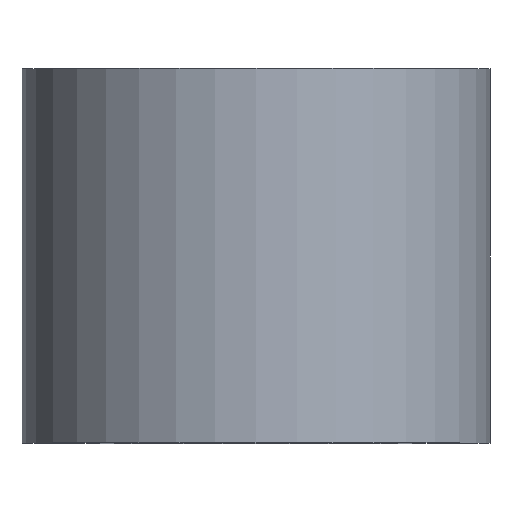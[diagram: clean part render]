
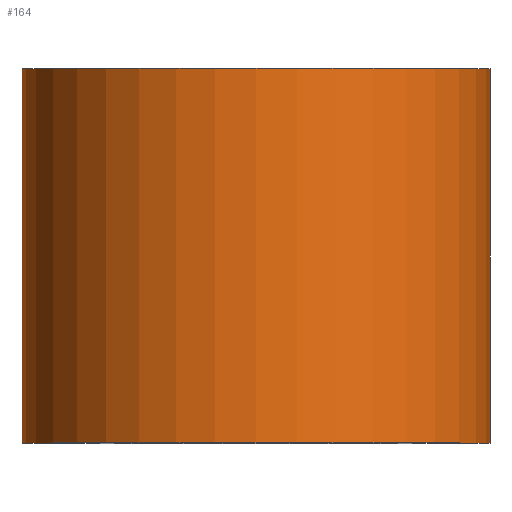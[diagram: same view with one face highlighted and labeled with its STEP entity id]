
A CAD part, top view. The second image highlights one B-rep face of the part: STEP entity #164.
In plain terms, the highlighted cylindrical face has radius 7.5 mm (diameter 15 mm), a partial arc.
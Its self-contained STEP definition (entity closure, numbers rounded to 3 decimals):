
#8 = CARTESIAN_POINT ( 'NONE',  ( 7.5, 0., 0. ) ) ;
#9 = ORIENTED_EDGE ( 'NONE', *, *, #75, .T. ) ;
#14 = FACE_OUTER_BOUND ( 'NONE', #134, .T. ) ;
#15 = CARTESIAN_POINT ( 'NONE',  ( -7.5, 12., 0. ) ) ;
#21 = EDGE_CURVE ( 'NONE', #77, #282, #122, .T. ) ;
#26 = CARTESIAN_POINT ( 'NONE',  ( -7.5, 0., 0. ) ) ;
#32 = CARTESIAN_POINT ( 'NONE',  ( 0., 0., 0. ) ) ;
#40 = CARTESIAN_POINT ( 'NONE',  ( 7.5, 0., 0. ) ) ;
#55 = DIRECTION ( 'NONE',  ( 0., 1., 0. ) ) ;
#56 = CARTESIAN_POINT ( 'NONE',  ( -7.5, 0., 0. ) ) ;
#57 = EDGE_CURVE ( 'NONE', #77, #234, #263, .T. ) ;
#58 = DIRECTION ( 'NONE',  ( -1., 0., 0. ) ) ;
#70 = VECTOR ( 'NONE', #238, 1000. ) ;
#75 = EDGE_CURVE ( 'NONE', #234, #136, #202, .T. ) ;
#77 = VERTEX_POINT ( 'NONE', #26 ) ;
#99 = EDGE_CURVE ( 'NONE', #282, #136, #155, .T. ) ;
#102 = DIRECTION ( 'NONE',  ( -1., 0., 0. ) ) ;
#108 = VECTOR ( 'NONE', #291, 1000. ) ;
#118 = DIRECTION ( 'NONE',  ( -1., 0., 0. ) ) ;
#122 = LINE ( 'NONE', #56, #70 ) ;
#124 = DIRECTION ( 'NONE',  ( 0., 1., 0. ) ) ;
#125 = DIRECTION ( 'NONE',  ( 0., 1., 0. ) ) ;
#126 = AXIS2_PLACEMENT_3D ( 'NONE', #262, #124, #102 ) ;
#130 = CYLINDRICAL_SURFACE ( 'NONE', #287, 7.5 ) ;
#134 = EDGE_LOOP ( 'NONE', ( #222, #9, #167, #184 ) ) ;
#136 = VERTEX_POINT ( 'NONE', #195 ) ;
#155 = CIRCLE ( 'NONE', #126, 7.5 ) ;
#164 = ADVANCED_FACE ( 'NONE', ( #14 ), #130, .T. ) ;
#167 = ORIENTED_EDGE ( 'NONE', *, *, #99, .F. ) ;
#184 = ORIENTED_EDGE ( 'NONE', *, *, #21, .F. ) ;
#195 = CARTESIAN_POINT ( 'NONE',  ( 7.5, 12., 0. ) ) ;
#202 = LINE ( 'NONE', #8, #108 ) ;
#222 = ORIENTED_EDGE ( 'NONE', *, *, #57, .T. ) ;
#234 = VERTEX_POINT ( 'NONE', #40 ) ;
#238 = DIRECTION ( 'NONE',  ( 0., 1., 0. ) ) ;
#240 = CARTESIAN_POINT ( 'NONE',  ( 0., 0., 0. ) ) ;
#255 = AXIS2_PLACEMENT_3D ( 'NONE', #32, #125, #58 ) ;
#262 = CARTESIAN_POINT ( 'NONE',  ( 0., 12., 0. ) ) ;
#263 = CIRCLE ( 'NONE', #255, 7.5 ) ;
#282 = VERTEX_POINT ( 'NONE', #15 ) ;
#287 = AXIS2_PLACEMENT_3D ( 'NONE', #240, #55, #118 ) ;
#291 = DIRECTION ( 'NONE',  ( 0., 1., 0. ) ) ;
